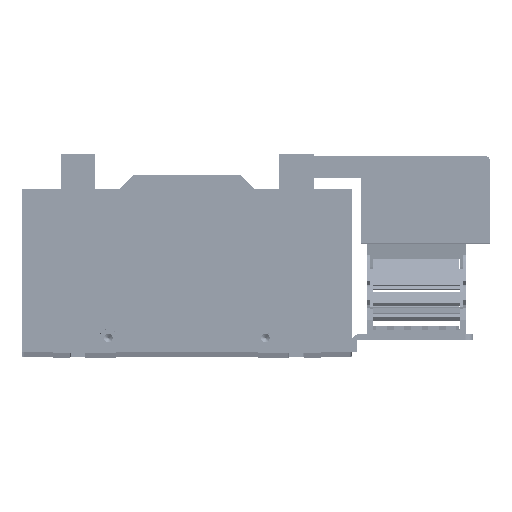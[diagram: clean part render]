
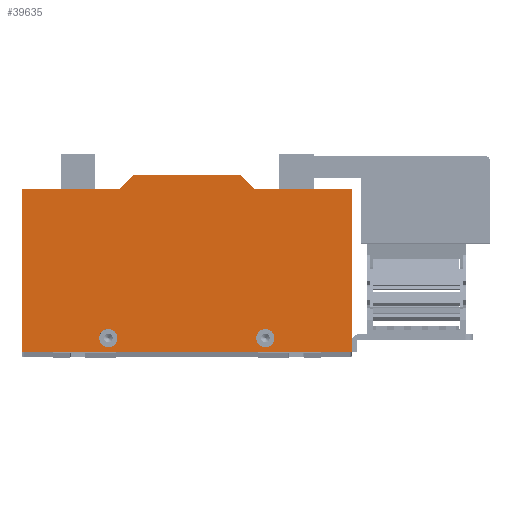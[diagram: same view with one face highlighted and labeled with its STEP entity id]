
A CAD part, top view. The second image highlights one B-rep face of the part: STEP entity #39635.
In plain terms, the highlighted planar face has unit normal (0, 0, 1) as drawn and (0, 0, -1) by its records, which use the part's own axes.
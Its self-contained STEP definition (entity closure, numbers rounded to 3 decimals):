
#36731 = EDGE_CURVE ( 'NONE', #36891, #38003, #67766, .T. ) ;
#36786 = VERTEX_POINT ( 'NONE', #67863 ) ;
#36791 = VERTEX_POINT ( 'NONE', #67843 ) ;
#36803 = VERTEX_POINT ( 'NONE', #67917 ) ;
#36809 = EDGE_CURVE ( 'NONE', #36786, #36791, #68023, .T. ) ;
#36814 = EDGE_CURVE ( 'NONE', #36846, #36868, #68007, .T. ) ;
#36822 = VERTEX_POINT ( 'NONE', #68092 ) ;
#36846 = VERTEX_POINT ( 'NONE', #68126 ) ;
#36856 = EDGE_CURVE ( 'NONE', #36803, #36892, #68237, .T. ) ;
#36868 = VERTEX_POINT ( 'NONE', #68333 ) ;
#36884 = EDGE_CURVE ( 'NONE', #36868, #36891, #68408, .T. ) ;
#36891 = VERTEX_POINT ( 'NONE', #68382 ) ;
#36892 = VERTEX_POINT ( 'NONE', #68380 ) ;
#37537 = VERTEX_POINT ( 'NONE', #70626 ) ;
#37898 = EDGE_CURVE ( 'NONE', #36822, #37537, #72034, .T. ) ;
#38003 = VERTEX_POINT ( 'NONE', #72392 ) ;
#39635 = ADVANCED_FACE ( 'NONE', ( #77245, #77244, #77243 ), #77250, .F. ) ;
#39636 = EDGE_LOOP ( 'NONE', ( #39637, #39639 ) ) ;
#39637 = ORIENTED_EDGE ( 'NONE', *, *, #39638, .F. ) ;
#39638 = EDGE_CURVE ( 'NONE', #36791, #36786, #77309, .T. ) ;
#39639 = ORIENTED_EDGE ( 'NONE', *, *, #36809, .F. ) ;
#39642 = EDGE_LOOP ( 'NONE', ( #39643, #39645 ) ) ;
#39643 = ORIENTED_EDGE ( 'NONE', *, *, #39644, .F. ) ;
#39644 = EDGE_CURVE ( 'NONE', #36892, #36803, #77304, .T. ) ;
#39645 = ORIENTED_EDGE ( 'NONE', *, *, #36856, .F. ) ;
#39647 = EDGE_LOOP ( 'NONE', ( #39689, #39690, #39693, #39696, #39698, #39704, #39677, #39678 ) ) ;
#39677 = ORIENTED_EDGE ( 'NONE', *, *, #36814, .T. ) ;
#39678 = ORIENTED_EDGE ( 'NONE', *, *, #36884, .T. ) ;
#39689 = ORIENTED_EDGE ( 'NONE', *, *, #36731, .T. ) ;
#39690 = ORIENTED_EDGE ( 'NONE', *, *, #39691, .F. ) ;
#39691 = EDGE_CURVE ( 'NONE', #39692, #38003, #77385, .T. ) ;
#39692 = VERTEX_POINT ( 'NONE', #77381 ) ;
#39693 = ORIENTED_EDGE ( 'NONE', *, *, #39694, .F. ) ;
#39694 = EDGE_CURVE ( 'NONE', #36822, #39692, #77379, .T. ) ;
#39696 = ORIENTED_EDGE ( 'NONE', *, *, #37898, .T. ) ;
#39698 = ORIENTED_EDGE ( 'NONE', *, *, #39699, .F. ) ;
#39699 = EDGE_CURVE ( 'NONE', #39701, #37537, #77371, .T. ) ;
#39701 = VERTEX_POINT ( 'NONE', #77366 ) ;
#39704 = ORIENTED_EDGE ( 'NONE', *, *, #39705, .F. ) ;
#39705 = EDGE_CURVE ( 'NONE', #36846, #39701, #77360, .T. ) ;
#67762 = DIRECTION ( 'NONE',  ( 0., -1., 0. ) ) ;
#67763 = VECTOR ( 'NONE', #67762, 1000. ) ;
#67765 = CARTESIAN_POINT ( 'NONE',  ( 14.809, 84.299, 0. ) ) ;
#67766 = LINE ( 'NONE', #67765, #67763 ) ;
#67843 = CARTESIAN_POINT ( 'NONE',  ( -130.691, 76.299, 0. ) ) ;
#67863 = CARTESIAN_POINT ( 'NONE',  ( -120.191, 76.299, 0. ) ) ;
#67917 = CARTESIAN_POINT ( 'NONE',  ( -29.691, 76.299, 0. ) ) ;
#68003 = DIRECTION ( 'NONE',  ( 0., 1., 0. ) ) ;
#68004 = VECTOR ( 'NONE', #68003, 1000. ) ;
#68005 = CARTESIAN_POINT ( 'NONE',  ( -175.191, -17.701, 0. ) ) ;
#68007 = LINE ( 'NONE', #68005, #68004 ) ;
#68016 = DIRECTION ( 'NONE',  ( -1., 0., 0. ) ) ;
#68018 = DIRECTION ( 'NONE',  ( 0., 0., -1. ) ) ;
#68019 = CARTESIAN_POINT ( 'NONE',  ( -125.441, 76.299, 0. ) ) ;
#68021 = AXIS2_PLACEMENT_3D ( 'NONE', #68019, #68018, #68016 ) ;
#68023 = CIRCLE ( 'NONE', #68021, 5.25 ) ;
#68092 = CARTESIAN_POINT ( 'NONE',  ( -49.191, -17.701, 0. ) ) ;
#68126 = CARTESIAN_POINT ( 'NONE',  ( -175.191, -9.701, 0. ) ) ;
#68232 = DIRECTION ( 'NONE',  ( -1., 0., 0. ) ) ;
#68234 = DIRECTION ( 'NONE',  ( 0., 0., -1. ) ) ;
#68235 = CARTESIAN_POINT ( 'NONE',  ( -34.941, 76.299, 0. ) ) ;
#68236 = AXIS2_PLACEMENT_3D ( 'NONE', #68235, #68234, #68232 ) ;
#68237 = CIRCLE ( 'NONE', #68236, 5.25 ) ;
#68333 = CARTESIAN_POINT ( 'NONE',  ( -175.191, 84.299, 0. ) ) ;
#68380 = CARTESIAN_POINT ( 'NONE',  ( -40.191, 76.299, 0. ) ) ;
#68382 = CARTESIAN_POINT ( 'NONE',  ( 14.809, 84.299, 0. ) ) ;
#68404 = DIRECTION ( 'NONE',  ( 1., 0., 0. ) ) ;
#68405 = VECTOR ( 'NONE', #68404, 1000. ) ;
#68407 = CARTESIAN_POINT ( 'NONE',  ( -175.191, 84.299, 0. ) ) ;
#68408 = LINE ( 'NONE', #68407, #68405 ) ;
#70626 = CARTESIAN_POINT ( 'NONE',  ( -111.191, -17.701, 0. ) ) ;
#72030 = DIRECTION ( 'NONE',  ( -1., 0., 0. ) ) ;
#72031 = VECTOR ( 'NONE', #72030, 1000. ) ;
#72033 = CARTESIAN_POINT ( 'NONE',  ( 14.809, -17.701, 0. ) ) ;
#72034 = LINE ( 'NONE', #72033, #72031 ) ;
#72392 = CARTESIAN_POINT ( 'NONE',  ( 14.809, -9.701, 0. ) ) ;
#77243 = FACE_OUTER_BOUND ( 'NONE', #39647, .T. ) ;
#77244 = FACE_BOUND ( 'NONE', #39642, .T. ) ;
#77245 = FACE_BOUND ( 'NONE', #39636, .T. ) ;
#77250 = PLANE ( 'NONE',  #77315 ) ;
#77300 = DIRECTION ( 'NONE',  ( -1., 0., 0. ) ) ;
#77301 = DIRECTION ( 'NONE',  ( 0., 0., -1. ) ) ;
#77302 = CARTESIAN_POINT ( 'NONE',  ( -34.941, 76.299, 0. ) ) ;
#77303 = AXIS2_PLACEMENT_3D ( 'NONE', #77302, #77301, #77300 ) ;
#77304 = CIRCLE ( 'NONE', #77303, 5.25 ) ;
#77305 = DIRECTION ( 'NONE',  ( -1., 0., 0. ) ) ;
#77306 = DIRECTION ( 'NONE',  ( 0., 0., -1. ) ) ;
#77307 = CARTESIAN_POINT ( 'NONE',  ( -125.441, 76.299, 0. ) ) ;
#77308 = AXIS2_PLACEMENT_3D ( 'NONE', #77307, #77306, #77305 ) ;
#77309 = CIRCLE ( 'NONE', #77308, 5.25 ) ;
#77312 = DIRECTION ( 'NONE',  ( 1., 0., 0. ) ) ;
#77313 = DIRECTION ( 'NONE',  ( 0., 0., 1. ) ) ;
#77314 = CARTESIAN_POINT ( 'NONE',  ( -175.191, 84.299, 0. ) ) ;
#77315 = AXIS2_PLACEMENT_3D ( 'NONE', #77314, #77313, #77312 ) ;
#77357 = DIRECTION ( 'NONE',  ( 1., 0., 0. ) ) ;
#77358 = VECTOR ( 'NONE', #77357, 1000. ) ;
#77359 = CARTESIAN_POINT ( 'NONE',  ( -119.191, -9.701, 0. ) ) ;
#77360 = LINE ( 'NONE', #77359, #77358 ) ;
#77366 = CARTESIAN_POINT ( 'NONE',  ( -119.191, -9.701, 0. ) ) ;
#77368 = DIRECTION ( 'NONE',  ( 0.707, -0.707, 0. ) ) ;
#77369 = VECTOR ( 'NONE', #77368, 1000. ) ;
#77370 = CARTESIAN_POINT ( 'NONE',  ( -111.191, -17.701, 0. ) ) ;
#77371 = LINE ( 'NONE', #77370, #77369 ) ;
#77376 = DIRECTION ( 'NONE',  ( 0.707, 0.707, 0. ) ) ;
#77377 = VECTOR ( 'NONE', #77376, 1000. ) ;
#77378 = CARTESIAN_POINT ( 'NONE',  ( -41.191, -9.701, 0. ) ) ;
#77379 = LINE ( 'NONE', #77378, #77377 ) ;
#77381 = CARTESIAN_POINT ( 'NONE',  ( -41.191, -9.701, 0. ) ) ;
#77382 = DIRECTION ( 'NONE',  ( 1., 0., 0. ) ) ;
#77383 = VECTOR ( 'NONE', #77382, 1000. ) ;
#77384 = CARTESIAN_POINT ( 'NONE',  ( 14.809, -9.701, 0. ) ) ;
#77385 = LINE ( 'NONE', #77384, #77383 ) ;
